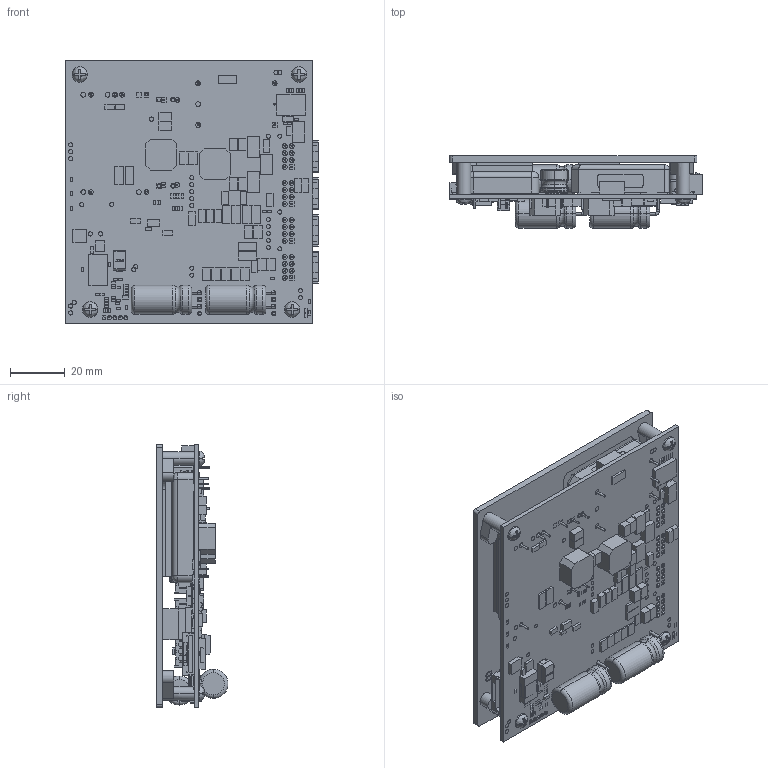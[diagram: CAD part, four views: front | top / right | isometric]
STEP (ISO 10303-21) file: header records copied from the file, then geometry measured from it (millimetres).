
FILE_DESCRIPTION((''),'2;1');
FILE_NAME('6880731_REVB_PSB_HS_ASSY_ASM','2019-02-01T',('user'),(''),'PRO/ENGINEER BY PARAMETRIC TECHNOLOGY CORPORATION, 2012130','PRO/ENGINEER BY PARAMETRIC TECHNOLOGY CORPORATION, 2012130','');
FILE_SCHEMA(('CONFIG_CONTROL_DESIGN'));
Length unit declared in the file: inch
Products named in the file (102): 6880731_REVB; 7110731_UPS_POWERSUPPLY_REV1; SOT23-6-57M; MH250X125GND; SAMTEC-IPL1-104-01-L-D-RA-K; SW3DPS-QFN-38_EXTRUDED20; SW3DPS-QFN-38_453495249_ASM; SW3DPS-QFN-38_EXTRUDED28; SW3DPS-QFN-38_453495505_ASM; SW3DPS-QFN-38_EXTRUDED19; SW3DPS-QFN-38_453496017_ASM; SW3DPS-QFN-38_EXTRUDED25; SW3DPS-QFN-38_453494609_ASM; SW3DPS-QFN-38_EXTRUDED23; SW3DPS-QFN-38_453495121_ASM; SW3DPS-QFN-38_EXTRUDED29; SW3DPS-QFN-38_453494993_ASM; SW3DPS-QFN-38_EXTRUDED22; SW3DPS-QFN-38_453495377_ASM; SW3DPS-QFN-38_EXTRUDED17; SW3DPS-QFN-38_453496529_ASM; SW3DPS-QFN-38_EXTRUDED18; SW3DPS-QFN-38_453494481_ASM; SW3DPS-QFN-38_EXTRUDED21; SW3DPS-QFN-38_453494737_ASM; SW3DPS-QFN-38_EXTRUDED24; SW3DPS-QFN-38_453494865_ASM; SW3DPS-QFN-38_EXTRUDED16; SW3DPS-QFN-38_453494353_ASM; SW3DPS-QFN-38_CYLINDER1; SW3DPS-QFN-38_453265617_ASM; SW3DPS-QFN-38_EXTRUDED27; SW3DPS-QFN-38_453496657_ASM; SW3DPS-QFN-38_EXTRUDED26; SW3DPS-QFN-38_453496273_ASM; SW3DPS-QFN-38_EXTRUDED15; SW3DPS-QFN-38_453496785_ASM; SW3DPS-QFN-38_ASM; BODY_SSOP28; PINS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
Assembly tree (424 placements, depth 5):
  6880731_REVB_PSB_HS_ASSY_ASM
    6880731_REVB
    7110731_UPS_POWERSUPPLY_REV1_ASM
      7110731_UPS_POWERSUPPLY_REV1
      SOT23-6-57M
      MH250X125GND  x4
      SAMTEC-IPL1-104-01-L-D-RA-K  x4
      SW3DPS-QFN-38_ASM
        SW3DPS-QFN-38_453495249_ASM  x38
          SW3DPS-QFN-38_EXTRUDED20
        SW3DPS-QFN-38_453495505_ASM  x12
          SW3DPS-QFN-38_EXTRUDED28
        SW3DPS-QFN-38_453496017_ASM  x12
          SW3DPS-QFN-38_EXTRUDED19
        SW3DPS-QFN-38_453494609_ASM
          SW3DPS-QFN-38_EXTRUDED25
        SW3DPS-QFN-38_453495121_ASM  x38
          SW3DPS-QFN-38_EXTRUDED23
        SW3DPS-QFN-38_453494993_ASM  x7
          SW3DPS-QFN-38_EXTRUDED29
        SW3DPS-QFN-38_453495377_ASM  x7
          SW3DPS-QFN-38_EXTRUDED22
        SW3DPS-QFN-38_453496529_ASM
          SW3DPS-QFN-38_EXTRUDED17
        SW3DPS-QFN-38_453494481_ASM
          SW3DPS-QFN-38_EXTRUDED18
        SW3DPS-QFN-38_453494737_ASM
          SW3DPS-QFN-38_EXTRUDED21
        SW3DPS-QFN-38_453494865_ASM
          SW3DPS-QFN-38_EXTRUDED24
        SW3DPS-QFN-38_453494353_ASM
          SW3DPS-QFN-38_EXTRUDED16
        SW3DPS-QFN-38_453265617_ASM
          SW3DPS-QFN-38_CYLINDER1
        SW3DPS-QFN-38_453496657_ASM
          SW3DPS-QFN-38_EXTRUDED27
        SW3DPS-QFN-38_453496273_ASM
          SW3DPS-QFN-38_EXTRUDED26
        SW3DPS-QFN-38_453496785_ASM
          SW3DPS-QFN-38_EXTRUDED15
      SSOP28_ASM
        ASM0009_ASM
          BODY_SSOP28
          PINS  x14
      JP5_1X6
      SM10B-GHS-TB
      CAP2917_ASM  x4
        CASE_TOP_24_ASM
          SCALE1_1_
          SCALE1_2_
          SCALE1_3_
          CHAMFER1
        CASE_CATHODE_24
        CASE_ANODE_24
        CASE_BOTTOM_24
      U6-DPAK
      PGDS50_V01
      FGDS2A50V_V01
      7110731_UPS_PS_REVA_091018_BOT
      7110731_UPS_PS_REVA_091018_TOP
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Bounding box: 92.08 x 26.25 x 95.89 mm (x, y, z)
Volume: 111387 mm3; surface area: 145051.3 mm2
Topology: 416 solids, 432 shells, 7605 faces, 19181 edges, 12620 vertices
Faces by surface type: plane 6038, cylinder 1183, torus 168, extrusion 110, bspline 67, cone 28, sphere 11
Entity records: 124913 total; most frequent: CARTESIAN_POINT 26603, DIRECTION 20135, ORIENTED_EDGE 19370, EDGE_CURVE 9725, VECTOR 7655, LINE 7545, VERTEX_POINT 6430, AXIS2_PLACEMENT_3D 6240
